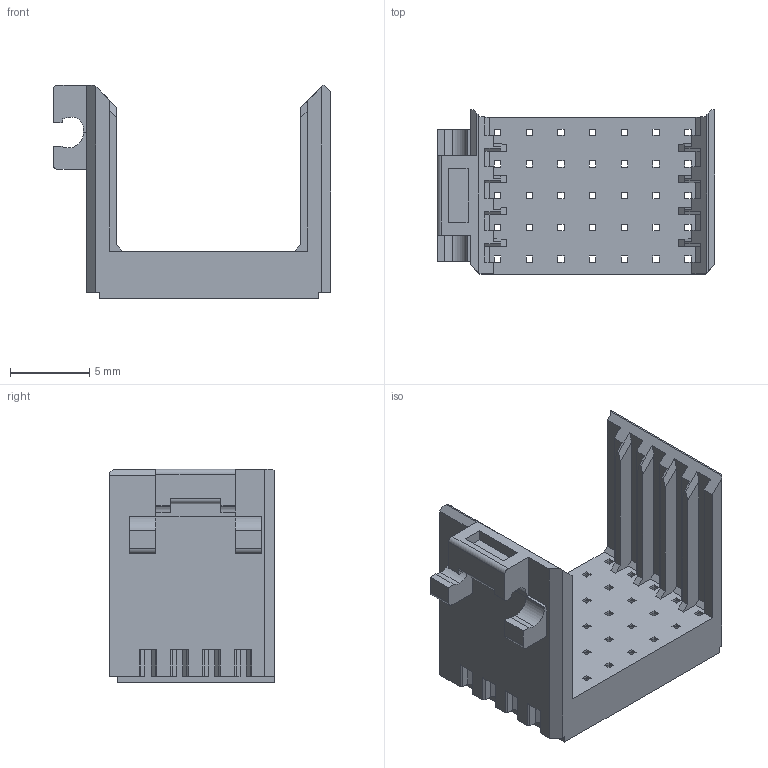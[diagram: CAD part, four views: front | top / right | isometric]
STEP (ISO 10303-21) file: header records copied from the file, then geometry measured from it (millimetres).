
FILE_DESCRIPTION (( 'STEP AP214' ), '1' );
FILE_NAME ('61_8073_035_300_007.STEP', '2022-04-11T04:30:01', ( '' ), ( '' ), 'SwSTEP 2.0', 'SolidWorks 2021', '' );
FILE_SCHEMA (( 'AUTOMOTIVE_DESIGN' ));
Length unit declared in the file: millimetre
Products named in the file (1): 61_8073_035_300_007
Bounding box: 17.5 x 10.35 x 13.45 mm (x, y, z)
Volume: 636 mm3; surface area: 1471.6 mm2
Topology: 1 solids, 1 shells, 928 faces, 2213 edges, 1288 vertices
Faces by surface type: plane 908, cylinder 20
Entity records: 25859 total; most frequent: CARTESIAN_POINT 4850, ORIENTED_EDGE 4426, DIRECTION 3975, EDGE_CURVE 2213, LINE 2029, VECTOR 2029, VERTEX_POINT 1288, EDGE_LOOP 999
